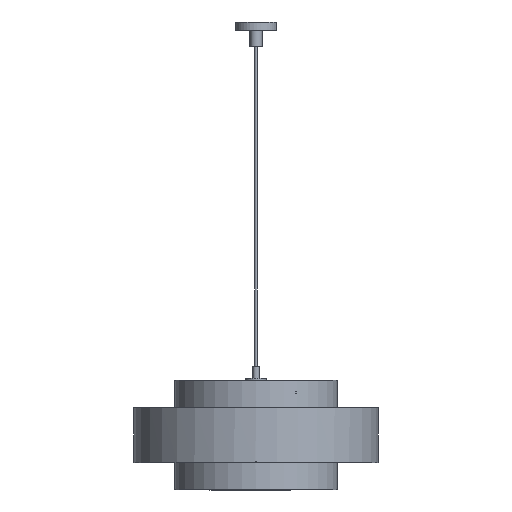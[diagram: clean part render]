
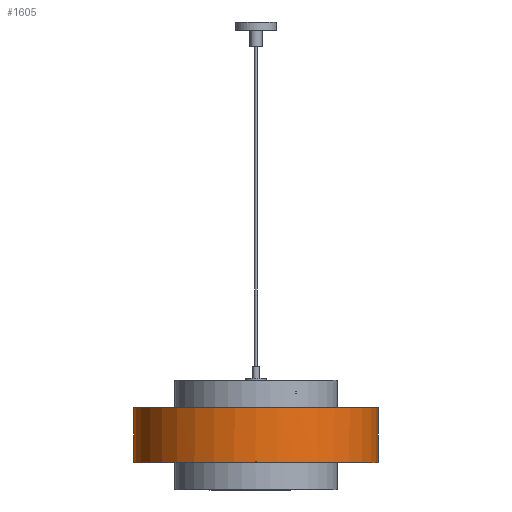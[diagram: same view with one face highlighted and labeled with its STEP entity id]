
A CAD part, front view. The second image highlights one B-rep face of the part: STEP entity #1605.
In plain terms, the highlighted cylindrical face has radius 300 mm (diameter 600 mm), a full revolution.
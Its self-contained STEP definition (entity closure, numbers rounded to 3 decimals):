
#47=FACE_BOUND('',#302,.T.);
#77=CIRCLE('',#1771,300.);
#78=CIRCLE('',#1772,300.);
#79=CIRCLE('',#1774,300.);
#80=CIRCLE('',#1775,300.);
#81=CIRCLE('',#1776,300.);
#115=CYLINDRICAL_SURFACE('',#1770,300.);
#138=ELLIPSE('',#1744,424.264,300.);
#140=ELLIPSE('',#1756,424.264,300.);
#142=ELLIPSE('',#1768,424.264,300.);
#143=ELLIPSE('',#1773,424.264,300.);
#200=FACE_OUTER_BOUND('',#301,.T.);
#301=EDGE_LOOP('',(#1229));
#302=EDGE_LOOP('',(#1230,#1231,#1232,#1233,#1234,#1235,#1236,#1237,#1238,
#1239,#1240,#1241));
#404=LINE('',#2454,#546);
#425=LINE('',#2505,#567);
#446=LINE('',#2556,#588);
#464=LINE('',#2601,#606);
#546=VECTOR('',#1994,10.);
#567=VECTOR('',#2039,10.);
#588=VECTOR('',#2084,10.);
#606=VECTOR('',#2126,10.);
#685=VERTEX_POINT('',#2452);
#686=VERTEX_POINT('',#2453);
#697=VERTEX_POINT('',#2485);
#703=VERTEX_POINT('',#2503);
#704=VERTEX_POINT('',#2504);
#715=VERTEX_POINT('',#2536);
#721=VERTEX_POINT('',#2554);
#722=VERTEX_POINT('',#2555);
#733=VERTEX_POINT('',#2587);
#735=VERTEX_POINT('',#2596);
#736=VERTEX_POINT('',#2598);
#737=VERTEX_POINT('',#2600);
#738=VERTEX_POINT('',#2602);
#847=EDGE_CURVE('',#685,#686,#404,.T.);
#863=EDGE_CURVE('',#686,#697,#138,.T.);
#872=EDGE_CURVE('',#703,#704,#425,.T.);
#888=EDGE_CURVE('',#704,#715,#140,.T.);
#897=EDGE_CURVE('',#721,#722,#446,.T.);
#913=EDGE_CURVE('',#722,#733,#142,.T.);
#918=EDGE_CURVE('',#735,#735,#77,.T.);
#919=EDGE_CURVE('',#736,#697,#78,.T.);
#920=EDGE_CURVE('',#736,#737,#464,.T.);
#921=EDGE_CURVE('',#737,#738,#143,.T.);
#922=EDGE_CURVE('',#721,#738,#79,.T.);
#923=EDGE_CURVE('',#703,#733,#80,.T.);
#924=EDGE_CURVE('',#685,#715,#81,.T.);
#1229=ORIENTED_EDGE('',*,*,#918,.F.);
#1230=ORIENTED_EDGE('',*,*,#847,.T.);
#1231=ORIENTED_EDGE('',*,*,#863,.T.);
#1232=ORIENTED_EDGE('',*,*,#919,.F.);
#1233=ORIENTED_EDGE('',*,*,#920,.T.);
#1234=ORIENTED_EDGE('',*,*,#921,.T.);
#1235=ORIENTED_EDGE('',*,*,#922,.F.);
#1236=ORIENTED_EDGE('',*,*,#897,.T.);
#1237=ORIENTED_EDGE('',*,*,#913,.T.);
#1238=ORIENTED_EDGE('',*,*,#923,.F.);
#1239=ORIENTED_EDGE('',*,*,#872,.T.);
#1240=ORIENTED_EDGE('',*,*,#888,.T.);
#1241=ORIENTED_EDGE('',*,*,#924,.F.);
#1605=ADVANCED_FACE('',(#200,#47),#115,.T.);
#1744=AXIS2_PLACEMENT_3D('',#2486,#2022,#2023);
#1756=AXIS2_PLACEMENT_3D('',#2537,#2067,#2068);
#1768=AXIS2_PLACEMENT_3D('',#2588,#2112,#2113);
#1770=AXIS2_PLACEMENT_3D('',#2595,#2120,#2121);
#1771=AXIS2_PLACEMENT_3D('',#2597,#2122,#2123);
#1772=AXIS2_PLACEMENT_3D('',#2599,#2124,#2125);
#1773=AXIS2_PLACEMENT_3D('',#2603,#2127,#2128);
#1774=AXIS2_PLACEMENT_3D('',#2604,#2129,#2130);
#1775=AXIS2_PLACEMENT_3D('',#2605,#2131,#2132);
#1776=AXIS2_PLACEMENT_3D('',#2606,#2133,#2134);
#1994=DIRECTION('',(0.,0.,1.));
#2022=DIRECTION('center_axis',(0.,0.707,0.707));
#2023=DIRECTION('ref_axis',(0.,-0.707,0.707));
#2039=DIRECTION('',(0.,0.,1.));
#2067=DIRECTION('center_axis',(0.707,0.,
0.707));
#2068=DIRECTION('ref_axis',(-0.707,0.,0.707));
#2084=DIRECTION('',(0.,0.,1.));
#2112=DIRECTION('center_axis',(0.,-0.707,
0.707));
#2113=DIRECTION('ref_axis',(0.,-0.707,-0.707));
#2120=DIRECTION('center_axis',(0.,0.,1.));
#2121=DIRECTION('ref_axis',(-1.,0.,0.));
#2122=DIRECTION('center_axis',(0.,0.,1.));
#2123=DIRECTION('ref_axis',(-1.,0.,0.));
#2124=DIRECTION('center_axis',(0.,0.,-1.));
#2125=DIRECTION('ref_axis',(-1.,0.,0.));
#2126=DIRECTION('',(0.,0.,1.));
#2127=DIRECTION('center_axis',(-0.707,0.,0.707));
#2128=DIRECTION('ref_axis',(-0.707,0.,-0.707));
#2129=DIRECTION('center_axis',(0.,0.,-1.));
#2130=DIRECTION('ref_axis',(-1.,0.,0.));
#2131=DIRECTION('center_axis',(0.,0.,-1.));
#2132=DIRECTION('ref_axis',(-1.,0.,0.));
#2133=DIRECTION('center_axis',(0.,0.,-1.));
#2134=DIRECTION('ref_axis',(-1.,0.,0.));
#2452=CARTESIAN_POINT('',(2.,299.993,0.));
#2453=CARTESIAN_POINT('',(2.,299.993,0.007));
#2454=CARTESIAN_POINT('',(2.,299.993,0.));
#2485=CARTESIAN_POINT('',(0.,300.,0.));
#2486=CARTESIAN_POINT('Origin',(0.,0.,300.));
#2503=CARTESIAN_POINT('',(299.993,-2.,0.));
#2504=CARTESIAN_POINT('',(299.993,-2.,0.007));
#2505=CARTESIAN_POINT('',(299.993,-2.,0.));
#2536=CARTESIAN_POINT('',(300.,0.,0.));
#2537=CARTESIAN_POINT('Origin',(0.,0.,300.));
#2554=CARTESIAN_POINT('',(-2.,-299.993,0.));
#2555=CARTESIAN_POINT('',(-2.,-299.993,0.007));
#2556=CARTESIAN_POINT('',(-2.,-299.993,0.));
#2587=CARTESIAN_POINT('',(0.,-300.,0.));
#2588=CARTESIAN_POINT('Origin',(0.,0.,300.));
#2595=CARTESIAN_POINT('Origin',(0.,0.,0.));
#2596=CARTESIAN_POINT('',(300.,0.,135.));
#2597=CARTESIAN_POINT('Origin',(0.,0.,135.));
#2598=CARTESIAN_POINT('',(-299.993,2.,0.));
#2599=CARTESIAN_POINT('Origin',(0.,0.,0.));
#2600=CARTESIAN_POINT('',(-299.993,2.,0.007));
#2601=CARTESIAN_POINT('',(-299.993,2.,0.));
#2602=CARTESIAN_POINT('',(-300.,0.,0.));
#2603=CARTESIAN_POINT('Origin',(0.,0.,300.));
#2604=CARTESIAN_POINT('Origin',(0.,0.,0.));
#2605=CARTESIAN_POINT('Origin',(0.,0.,0.));
#2606=CARTESIAN_POINT('Origin',(0.,0.,0.));
